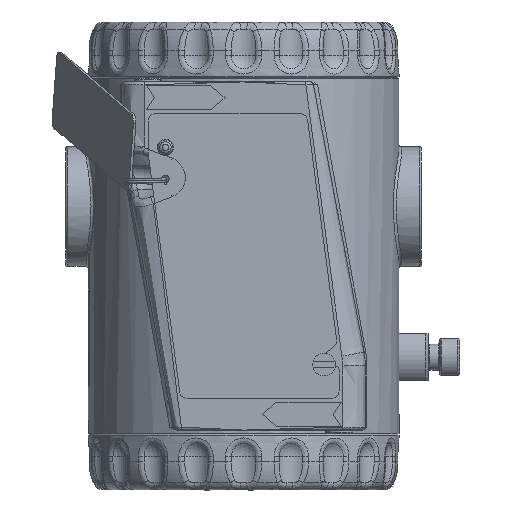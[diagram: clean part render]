
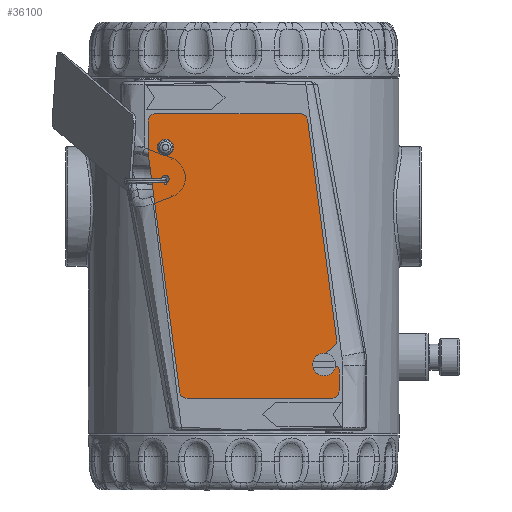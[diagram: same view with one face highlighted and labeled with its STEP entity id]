
A CAD part, left-side view. The second image highlights one B-rep face of the part: STEP entity #36100.
In plain terms, the highlighted planar face has unit normal (-1, 0, 0) as drawn and (0, 0, 1) by its records, which use the part's own axes.
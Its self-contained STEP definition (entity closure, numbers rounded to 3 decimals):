
#1111=PLANE('',#40278);
#1696=FACE_BOUND('',#9516,.T.);
#1697=FACE_BOUND('',#9517,.T.);
#3002=LINE('',#77349,#4623);
#3006=LINE('',#77361,#4627);
#3010=LINE('',#77373,#4631);
#3014=LINE('',#77385,#4635);
#3018=LINE('',#77397,#4639);
#3021=LINE('',#77403,#4642);
#3025=LINE('',#77415,#4646);
#3029=LINE('',#77426,#4650);
#4623=VECTOR('',#48810,10.);
#4627=VECTOR('',#48822,10.);
#4631=VECTOR('',#48834,10.);
#4635=VECTOR('',#48846,10.);
#4639=VECTOR('',#48858,10.);
#4642=VECTOR('',#48863,10.);
#4646=VECTOR('',#48875,10.);
#4650=VECTOR('',#48887,10.);
#7204=FACE_OUTER_BOUND('',#9515,.T.);
#9515=EDGE_LOOP('',(#30526,#30527,#30528,#30529,#30530,#30531,#30532,#30533,
#30534,#30535,#30536,#30537,#30538,#30539,#30540));
#9516=EDGE_LOOP('',(#30541));
#9517=EDGE_LOOP('',(#30542));
#11915=CIRCLE('',#40244,1.35);
#11917=CIRCLE('',#40247,1.);
#11918=CIRCLE('',#40249,2.);
#11920=CIRCLE('',#40253,2.);
#11922=CIRCLE('',#40257,1.);
#11924=CIRCLE('',#40261,2.);
#11926=CIRCLE('',#40265,2.);
#11928=CIRCLE('',#40270,2.);
#11930=CIRCLE('',#40274,2.);
#16306=VERTEX_POINT('',#77329);
#16308=VERTEX_POINT('',#77335);
#16309=VERTEX_POINT('',#77339);
#16310=VERTEX_POINT('',#77340);
#16313=VERTEX_POINT('',#77348);
#16315=VERTEX_POINT('',#77354);
#16317=VERTEX_POINT('',#77360);
#16319=VERTEX_POINT('',#77366);
#16321=VERTEX_POINT('',#77372);
#16323=VERTEX_POINT('',#77378);
#16325=VERTEX_POINT('',#77384);
#16327=VERTEX_POINT('',#77390);
#16329=VERTEX_POINT('',#77396);
#16331=VERTEX_POINT('',#77402);
#16333=VERTEX_POINT('',#77408);
#16335=VERTEX_POINT('',#77414);
#16337=VERTEX_POINT('',#77420);
#21178=EDGE_CURVE('',#16306,#16306,#11915,.T.);
#21181=EDGE_CURVE('',#16308,#16308,#11917,.T.);
#21182=EDGE_CURVE('',#16309,#16310,#11918,.T.);
#21186=EDGE_CURVE('',#16310,#16313,#3002,.T.);
#21189=EDGE_CURVE('',#16313,#16315,#11920,.T.);
#21192=EDGE_CURVE('',#16315,#16317,#3006,.T.);
#21195=EDGE_CURVE('',#16317,#16319,#11922,.T.);
#21198=EDGE_CURVE('',#16319,#16321,#3010,.T.);
#21201=EDGE_CURVE('',#16321,#16323,#11924,.T.);
#21204=EDGE_CURVE('',#16323,#16325,#3014,.T.);
#21207=EDGE_CURVE('',#16325,#16327,#11926,.T.);
#21210=EDGE_CURVE('',#16327,#16329,#3018,.T.);
#21213=EDGE_CURVE('',#16329,#16331,#3021,.T.);
#21216=EDGE_CURVE('',#16331,#16333,#11928,.T.);
#21219=EDGE_CURVE('',#16333,#16335,#3025,.T.);
#21222=EDGE_CURVE('',#16335,#16337,#11930,.T.);
#21225=EDGE_CURVE('',#16337,#16309,#3029,.T.);
#30526=ORIENTED_EDGE('',*,*,#21182,.F.);
#30527=ORIENTED_EDGE('',*,*,#21225,.F.);
#30528=ORIENTED_EDGE('',*,*,#21222,.F.);
#30529=ORIENTED_EDGE('',*,*,#21219,.F.);
#30530=ORIENTED_EDGE('',*,*,#21216,.F.);
#30531=ORIENTED_EDGE('',*,*,#21213,.F.);
#30532=ORIENTED_EDGE('',*,*,#21210,.F.);
#30533=ORIENTED_EDGE('',*,*,#21207,.F.);
#30534=ORIENTED_EDGE('',*,*,#21204,.F.);
#30535=ORIENTED_EDGE('',*,*,#21201,.F.);
#30536=ORIENTED_EDGE('',*,*,#21198,.F.);
#30537=ORIENTED_EDGE('',*,*,#21195,.F.);
#30538=ORIENTED_EDGE('',*,*,#21192,.F.);
#30539=ORIENTED_EDGE('',*,*,#21189,.F.);
#30540=ORIENTED_EDGE('',*,*,#21186,.F.);
#30541=ORIENTED_EDGE('',*,*,#21178,.T.);
#30542=ORIENTED_EDGE('',*,*,#21181,.T.);
#36100=ADVANCED_FACE('',(#7204,#1696,#1697),#1111,.T.);
#40244=AXIS2_PLACEMENT_3D('',#77331,#48791,#48792);
#40247=AXIS2_PLACEMENT_3D('',#77337,#48798,#48799);
#40249=AXIS2_PLACEMENT_3D('',#77341,#48802,#48803);
#40253=AXIS2_PLACEMENT_3D('',#77355,#48815,#48816);
#40257=AXIS2_PLACEMENT_3D('',#77367,#48827,#48828);
#40261=AXIS2_PLACEMENT_3D('',#77379,#48839,#48840);
#40265=AXIS2_PLACEMENT_3D('',#77391,#48851,#48852);
#40270=AXIS2_PLACEMENT_3D('',#77409,#48868,#48869);
#40274=AXIS2_PLACEMENT_3D('',#77421,#48880,#48881);
#40278=AXIS2_PLACEMENT_3D('',#77429,#48891,#48892);
#48791=DIRECTION('center_axis',(0.,0.,-1.));
#48792=DIRECTION('ref_axis',(-1.,0.,0.));
#48798=DIRECTION('center_axis',(0.,0.,-1.));
#48799=DIRECTION('ref_axis',(-1.,0.,0.));
#48802=DIRECTION('center_axis',(0.,0.,-1.));
#48803=DIRECTION('ref_axis',(0.766,0.643,0.));
#48810=DIRECTION('',(0.643,-0.766,0.));
#48815=DIRECTION('center_axis',(0.,0.,1.));
#48816=DIRECTION('ref_axis',(0.766,0.643,0.));
#48822=DIRECTION('',(-0.643,0.766,0.));
#48827=DIRECTION('center_axis',(0.,0.,-1.));
#48828=DIRECTION('ref_axis',(0.,1.,0.));
#48834=DIRECTION('',(1.,0.,0.));
#48839=DIRECTION('center_axis',(0.,0.,-1.));
#48840=DIRECTION('ref_axis',(1.,0.,0.));
#48846=DIRECTION('',(0.,-1.,0.));
#48851=DIRECTION('center_axis',(0.,0.,-1.));
#48852=DIRECTION('ref_axis',(0.131,-0.991,0.));
#48858=DIRECTION('',(-0.991,-0.131,0.));
#48863=DIRECTION('',(-1.,0.,0.));
#48868=DIRECTION('center_axis',(0.,0.,-1.));
#48869=DIRECTION('ref_axis',(-1.,0.,0.));
#48875=DIRECTION('',(0.,1.,0.));
#48880=DIRECTION('center_axis',(0.,0.,-1.));
#48881=DIRECTION('ref_axis',(-0.131,0.991,0.));
#48887=DIRECTION('',(0.991,0.131,0.));
#48891=DIRECTION('center_axis',(0.,0.,1.));
#48892=DIRECTION('ref_axis',(1.,0.,0.));
#77329=CARTESIAN_POINT('',(10.35,4.599,0.7));
#77331=CARTESIAN_POINT('Origin',(9.,4.599,0.7));
#77335=CARTESIAN_POINT('',(18.4,4.599,0.7));
#77337=CARTESIAN_POINT('Origin',(17.4,4.599,0.7));
#77339=CARTESIAN_POINT('',(60.389,50.327,0.7));
#77340=CARTESIAN_POINT('',(62.182,49.63,0.7));
#77341=CARTESIAN_POINT('Origin',(60.65,48.344,0.7));
#77348=CARTESIAN_POINT('',(65.468,45.714,0.7));
#77349=CARTESIAN_POINT('',(65.468,45.714,0.7));
#77354=CARTESIAN_POINT('',(68.532,48.286,0.7));
#77355=CARTESIAN_POINT('Origin',(67.,47.,0.7));
#77360=CARTESIAN_POINT('',(67.633,49.357,0.7));
#77361=CARTESIAN_POINT('',(67.633,49.357,0.7));
#77366=CARTESIAN_POINT('',(68.399,51.,0.7));
#77367=CARTESIAN_POINT('Origin',(68.399,50.,0.7));
#77372=CARTESIAN_POINT('',(74.,51.,0.7));
#77373=CARTESIAN_POINT('',(74.,51.,0.7));
#77378=CARTESIAN_POINT('',(76.,49.,0.7));
#77379=CARTESIAN_POINT('Origin',(74.,49.,0.7));
#77384=CARTESIAN_POINT('',(76.,10.377,0.7));
#77385=CARTESIAN_POINT('',(76.,10.377,0.7));
#77390=CARTESIAN_POINT('',(74.261,8.394,0.7));
#77391=CARTESIAN_POINT('Origin',(74.,10.377,0.7));
#77396=CARTESIAN_POINT('',(10.5,0.,0.7));
#77397=CARTESIAN_POINT('',(10.5,0.,0.7));
#77402=CARTESIAN_POINT('',(2.,0.,0.7));
#77403=CARTESIAN_POINT('',(2.,0.,0.7));
#77408=CARTESIAN_POINT('',(0.,2.,0.7));
#77409=CARTESIAN_POINT('Origin',(2.,2.,0.7));
#77414=CARTESIAN_POINT('',(0.,40.623,0.7));
#77415=CARTESIAN_POINT('',(0.,40.623,0.7));
#77420=CARTESIAN_POINT('',(1.739,42.606,0.7));
#77421=CARTESIAN_POINT('Origin',(2.,40.623,0.7));
#77426=CARTESIAN_POINT('',(60.389,50.327,0.7));
#77429=CARTESIAN_POINT('Origin',(39.077,26.228,0.7));
